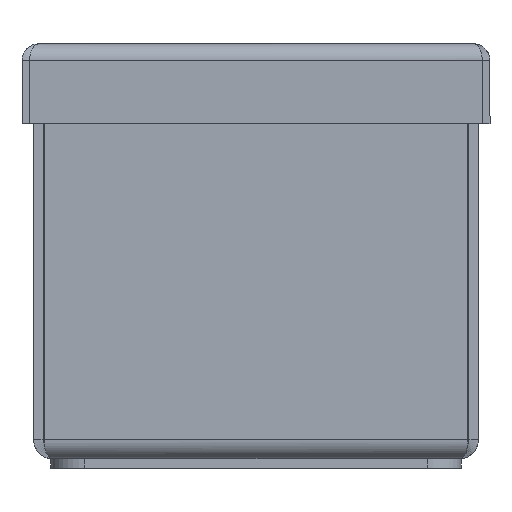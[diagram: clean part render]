
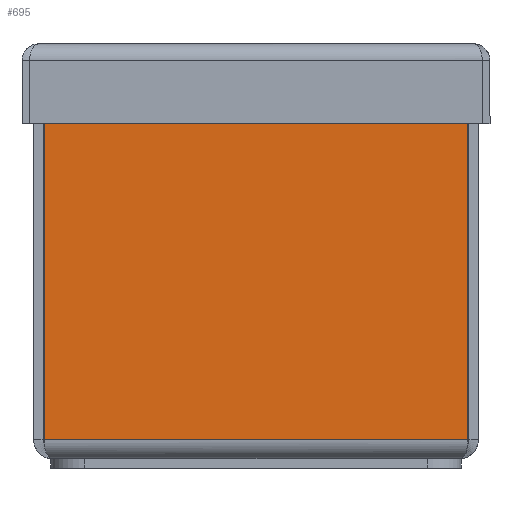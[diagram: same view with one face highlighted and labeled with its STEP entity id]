
A CAD part, left-side view. The second image highlights one B-rep face of the part: STEP entity #695.
In plain terms, the highlighted planar face has unit normal (-1, 0, 0).
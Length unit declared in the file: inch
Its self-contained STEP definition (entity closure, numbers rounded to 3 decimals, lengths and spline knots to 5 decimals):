
#40 = EDGE_CURVE ( 'NONE', #8397, #8328, #3602, .T. ) ;
#42 = EDGE_CURVE ( 'NONE', #8329, #8400, #3606, .T. ) ;
#48 = EDGE_CURVE ( 'NONE', #8329, #8394, #3608, .T. ) ;
#49 = EDGE_CURVE ( 'NONE', #8326, #8400, #3623, .T. ) ;
#50 = EDGE_CURVE ( 'NONE', #8389, #8397, #3625, .T. ) ;
#51 = EDGE_CURVE ( 'NONE', #8393, #8394, #3627, .T. ) ;
#52 = EDGE_CURVE ( 'NONE', #8389, #8393, #3629, .T. ) ;
#695 = ADVANCED_FACE ( 'NONE', ( #4451 ), #7241, .F. ) ;
#1076 = LINE ( 'NONE', #9617, #1077 ) ;
#1077 = VECTOR ( 'NONE', #9618, 39.37008 ) ;
#1996 = ORIENTED_EDGE ( 'NONE', *, *, #12327, .F. ) ;
#1997 = ORIENTED_EDGE ( 'NONE', *, *, #49, .T. ) ;
#1998 = ORIENTED_EDGE ( 'NONE', *, *, #42, .F. ) ;
#1999 = ORIENTED_EDGE ( 'NONE', *, *, #48, .T. ) ;
#2000 = ORIENTED_EDGE ( 'NONE', *, *, #51, .F. ) ;
#2001 = ORIENTED_EDGE ( 'NONE', *, *, #52, .F. ) ;
#2002 = ORIENTED_EDGE ( 'NONE', *, *, #50, .T. ) ;
#2003 = ORIENTED_EDGE ( 'NONE', *, *, #40, .T. ) ;
#2387 = EDGE_LOOP ( 'NONE', ( #1996, #1997, #1998, #1999, #2000, #2001, #2002, #2003 ) ) ;
#3602 = LINE ( 'NONE', #8600, #3605 ) ;
#3603 = VECTOR ( 'NONE', #8633, 39.37008 ) ;
#3605 = VECTOR ( 'NONE', #8603, 39.37008 ) ;
#3606 = LINE ( 'NONE', #8607, #3603 ) ;
#3608 = LINE ( 'NONE', #8616, #3621 ) ;
#3621 = VECTOR ( 'NONE', #8619, 39.37008 ) ;
#3623 = LINE ( 'NONE', #8620, #3624 ) ;
#3624 = VECTOR ( 'NONE', #8621, 39.37008 ) ;
#3625 = LINE ( 'NONE', #8622, #3626 ) ;
#3626 = VECTOR ( 'NONE', #8623, 39.37008 ) ;
#3627 = LINE ( 'NONE', #8624, #3628 ) ;
#3628 = VECTOR ( 'NONE', #8625, 39.37008 ) ;
#3629 = LINE ( 'NONE', #8626, #3630 ) ;
#3630 = VECTOR ( 'NONE', #8627, 39.37008 ) ;
#4451 = FACE_OUTER_BOUND ( 'NONE', #2387, .T. ) ;
#5079 = CARTESIAN_POINT ( 'NONE',  ( -2.875, -0.719, 2.542 ) ) ;
#5081 = CARTESIAN_POINT ( 'NONE',  ( -2.875, -0.719, 2.681 ) ) ;
#5082 = CARTESIAN_POINT ( 'NONE',  ( -2.875, 0.719, 2.681 ) ) ;
#5142 = CARTESIAN_POINT ( 'NONE',  ( -2.875, -1.54716, 0.07 ) ) ;
#5146 = CARTESIAN_POINT ( 'NONE',  ( -2.875, 1.54716, 0.07 ) ) ;
#5147 = CARTESIAN_POINT ( 'NONE',  ( -2.875, 1.54716, 2.681 ) ) ;
#5150 = CARTESIAN_POINT ( 'NONE',  ( -2.875, -1.54716, 2.681 ) ) ;
#5153 = CARTESIAN_POINT ( 'NONE',  ( -2.875, 0.719, 2.542 ) ) ;
#7236 = CARTESIAN_POINT ( 'NONE',  ( -2.875, 1.625, 2.681 ) ) ;
#7241 = PLANE ( 'NONE',  #7669 ) ;
#7246 = DIRECTION ( 'NONE',  ( 1., 0., 0. ) ) ;
#7247 = DIRECTION ( 'NONE',  ( 0., 0., -1. ) ) ;
#7669 = AXIS2_PLACEMENT_3D ( 'NONE', #7236, #7246, #7247 ) ;
#8326 = VERTEX_POINT ( 'NONE', #5079 ) ;
#8328 = VERTEX_POINT ( 'NONE', #5081 ) ;
#8329 = VERTEX_POINT ( 'NONE', #5082 ) ;
#8389 = VERTEX_POINT ( 'NONE', #5142 ) ;
#8393 = VERTEX_POINT ( 'NONE', #5146 ) ;
#8394 = VERTEX_POINT ( 'NONE', #5147 ) ;
#8397 = VERTEX_POINT ( 'NONE', #5150 ) ;
#8400 = VERTEX_POINT ( 'NONE', #5153 ) ;
#8600 = CARTESIAN_POINT ( 'NONE',  ( -2.875, 1.625, 2.681 ) ) ;
#8603 = DIRECTION ( 'NONE',  ( 0., 1., 0. ) ) ;
#8607 = CARTESIAN_POINT ( 'NONE',  ( -2.875, 0.719, 2.681 ) ) ;
#8616 = CARTESIAN_POINT ( 'NONE',  ( -2.875, 1.625, 2.681 ) ) ;
#8619 = DIRECTION ( 'NONE',  ( 0., 1., 0. ) ) ;
#8620 = CARTESIAN_POINT ( 'NONE',  ( -2.875, -0.719, 2.542 ) ) ;
#8621 = DIRECTION ( 'NONE',  ( 0., 1., 0. ) ) ;
#8622 = CARTESIAN_POINT ( 'NONE',  ( -2.875, -1.54716, 0.07 ) ) ;
#8623 = DIRECTION ( 'NONE',  ( 0., 0., 1. ) ) ;
#8624 = CARTESIAN_POINT ( 'NONE',  ( -2.875, 1.54716, 0.07 ) ) ;
#8625 = DIRECTION ( 'NONE',  ( 0., 0., 1. ) ) ;
#8626 = CARTESIAN_POINT ( 'NONE',  ( -2.875, 1.625, 0.07 ) ) ;
#8627 = DIRECTION ( 'NONE',  ( 0., 1., 0. ) ) ;
#8633 = DIRECTION ( 'NONE',  ( 0., 0., -1. ) ) ;
#9617 = CARTESIAN_POINT ( 'NONE',  ( -2.875, -0.719, 2.681 ) ) ;
#9618 = DIRECTION ( 'NONE',  ( 0., 0., 1. ) ) ;
#12327 = EDGE_CURVE ( 'NONE', #8326, #8328, #1076, .T. ) ;
